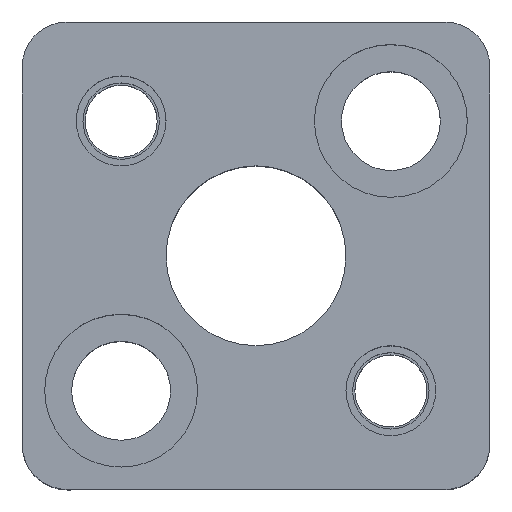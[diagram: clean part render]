
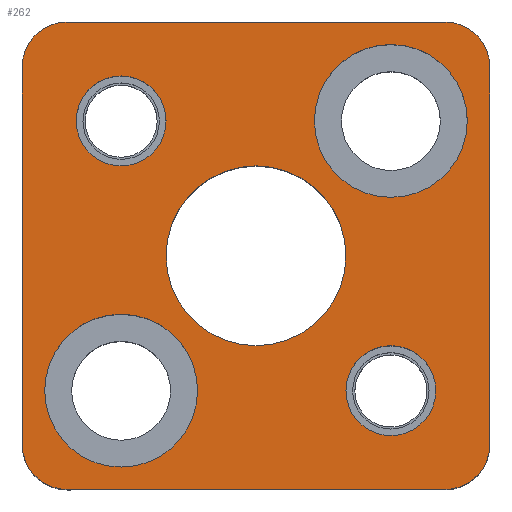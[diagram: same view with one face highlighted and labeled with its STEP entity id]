
A CAD part, top view. The second image highlights one B-rep face of the part: STEP entity #262.
In plain terms, the highlighted planar face has unit normal (0, 0, 1).
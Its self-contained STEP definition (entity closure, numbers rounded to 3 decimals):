
#111=FACE_BOUND('',#381,.T.);
#112=FACE_BOUND('',#382,.T.);
#113=FACE_BOUND('',#383,.T.);
#114=FACE_BOUND('',#384,.T.);
#115=FACE_BOUND('',#385,.T.);
#116=FACE_BOUND('',#386,.T.);
#162=CIRCLE('',#926,5.);
#164=CIRCLE('',#930,5.);
#166=CIRCLE('',#934,5.);
#168=CIRCLE('',#938,5.);
#181=CIRCLE('',#964,8.5);
#183=CIRCLE('',#967,8.5);
#185=CIRCLE('',#971,8.5);
#187=CIRCLE('',#974,8.5);
#209=CIRCLE('',#1011,5.);
#210=CIRCLE('',#1012,5.);
#211=CIRCLE('',#1013,5.);
#212=CIRCLE('',#1014,5.);
#213=CIRCLE('',#1015,10.);
#214=CIRCLE('',#1016,10.);
#262=ADVANCED_FACE('',(#111,#112,#113,#114,#115,#116),#287,.T.);
#287=PLANE('',#1017);
#381=EDGE_LOOP('',(#571,#572,#573,#574,#575,#576,#577,#578));
#382=EDGE_LOOP('',(#579,#580));
#383=EDGE_LOOP('',(#581,#582));
#384=EDGE_LOOP('',(#583,#584));
#385=EDGE_LOOP('',(#585,#586));
#386=EDGE_LOOP('',(#587,#588));
#571=ORIENTED_EDGE('',*,*,#724,.T.);
#572=ORIENTED_EDGE('',*,*,#721,.T.);
#573=ORIENTED_EDGE('',*,*,#718,.T.);
#574=ORIENTED_EDGE('',*,*,#715,.T.);
#575=ORIENTED_EDGE('',*,*,#712,.T.);
#576=ORIENTED_EDGE('',*,*,#709,.T.);
#577=ORIENTED_EDGE('',*,*,#730,.T.);
#578=ORIENTED_EDGE('',*,*,#727,.T.);
#579=ORIENTED_EDGE('',*,*,#801,.F.);
#580=ORIENTED_EDGE('',*,*,#802,.F.);
#581=ORIENTED_EDGE('',*,*,#803,.F.);
#582=ORIENTED_EDGE('',*,*,#804,.F.);
#583=ORIENTED_EDGE('',*,*,#769,.F.);
#584=ORIENTED_EDGE('',*,*,#765,.F.);
#585=ORIENTED_EDGE('',*,*,#763,.F.);
#586=ORIENTED_EDGE('',*,*,#759,.F.);
#587=ORIENTED_EDGE('',*,*,#805,.T.);
#588=ORIENTED_EDGE('',*,*,#806,.T.);
#635=VERTEX_POINT('',#1320);
#636=VERTEX_POINT('',#1322);
#638=VERTEX_POINT('',#1328);
#640=VERTEX_POINT('',#1334);
#642=VERTEX_POINT('',#1340);
#644=VERTEX_POINT('',#1346);
#646=VERTEX_POINT('',#1352);
#648=VERTEX_POINT('',#1358);
#665=VERTEX_POINT('',#1433);
#666=VERTEX_POINT('',#1434);
#669=VERTEX_POINT('',#1446);
#670=VERTEX_POINT('',#1447);
#693=VERTEX_POINT('',#1522);
#694=VERTEX_POINT('',#1523);
#695=VERTEX_POINT('',#1526);
#696=VERTEX_POINT('',#1527);
#697=VERTEX_POINT('',#1530);
#698=VERTEX_POINT('',#1531);
#709=EDGE_CURVE('',#636,#635,#825,.T.);
#712=EDGE_CURVE('',#638,#636,#162,.T.);
#715=EDGE_CURVE('',#640,#638,#829,.T.);
#718=EDGE_CURVE('',#642,#640,#164,.T.);
#721=EDGE_CURVE('',#644,#642,#833,.T.);
#724=EDGE_CURVE('',#646,#644,#166,.T.);
#727=EDGE_CURVE('',#648,#646,#837,.T.);
#730=EDGE_CURVE('',#635,#648,#168,.T.);
#759=EDGE_CURVE('',#665,#666,#181,.T.);
#763=EDGE_CURVE('',#666,#665,#183,.T.);
#765=EDGE_CURVE('',#669,#670,#185,.T.);
#769=EDGE_CURVE('',#670,#669,#187,.T.);
#801=EDGE_CURVE('',#693,#694,#209,.T.);
#802=EDGE_CURVE('',#694,#693,#210,.T.);
#803=EDGE_CURVE('',#695,#696,#211,.T.);
#804=EDGE_CURVE('',#696,#695,#212,.T.);
#805=EDGE_CURVE('',#697,#698,#213,.T.);
#806=EDGE_CURVE('',#698,#697,#214,.T.);
#825=LINE('',#1321,#875);
#829=LINE('',#1333,#879);
#833=LINE('',#1345,#883);
#837=LINE('',#1357,#887);
#875=VECTOR('',#1041,1.);
#879=VECTOR('',#1053,1.);
#883=VECTOR('',#1065,1.);
#887=VECTOR('',#1077,1.);
#926=AXIS2_PLACEMENT_3D('',#1327,#1047,#1048);
#930=AXIS2_PLACEMENT_3D('',#1339,#1059,#1060);
#934=AXIS2_PLACEMENT_3D('',#1351,#1071,#1072);
#938=AXIS2_PLACEMENT_3D('',#1362,#1083,#1084);
#964=AXIS2_PLACEMENT_3D('',#1432,#1147,#1148);
#967=AXIS2_PLACEMENT_3D('',#1441,#1155,#1156);
#971=AXIS2_PLACEMENT_3D('',#1445,#1163,#1164);
#974=AXIS2_PLACEMENT_3D('',#1454,#1171,#1172);
#1011=AXIS2_PLACEMENT_3D('',#1521,#1255,#1256);
#1012=AXIS2_PLACEMENT_3D('',#1524,#1257,#1258);
#1013=AXIS2_PLACEMENT_3D('',#1525,#1259,#1260);
#1014=AXIS2_PLACEMENT_3D('',#1528,#1261,#1262);
#1015=AXIS2_PLACEMENT_3D('',#1529,#1263,#1264);
#1016=AXIS2_PLACEMENT_3D('',#1532,#1265,#1266);
#1017=AXIS2_PLACEMENT_3D('',#1533,#1267,#1268);
#1041=DIRECTION('',(0.,-1.,0.));
#1047=DIRECTION('',(0.,0.,1.));
#1048=DIRECTION('',(0.707,-0.707,0.));
#1053=DIRECTION('',(-1.,0.,0.));
#1059=DIRECTION('',(0.,0.,1.));
#1060=DIRECTION('',(-0.707,-0.707,0.));
#1065=DIRECTION('',(0.,1.,0.));
#1071=DIRECTION('',(0.,0.,1.));
#1072=DIRECTION('',(-0.707,0.707,0.));
#1077=DIRECTION('',(1.,0.,0.));
#1083=DIRECTION('',(0.,0.,1.));
#1084=DIRECTION('',(0.707,0.707,0.));
#1147=DIRECTION('',(0.,0.,1.));
#1148=DIRECTION('',(-1.,0.,0.));
#1155=DIRECTION('',(0.,0.,1.));
#1156=DIRECTION('',(1.,0.,0.));
#1163=DIRECTION('',(0.,0.,1.));
#1164=DIRECTION('',(-1.,0.,0.));
#1171=DIRECTION('',(0.,0.,1.));
#1172=DIRECTION('',(1.,0.,0.));
#1255=DIRECTION('',(0.,0.,1.));
#1256=DIRECTION('',(1.,0.,0.));
#1257=DIRECTION('',(0.,0.,1.));
#1258=DIRECTION('',(-1.,0.,0.));
#1259=DIRECTION('',(0.,0.,1.));
#1260=DIRECTION('',(1.,0.,0.));
#1261=DIRECTION('',(0.,0.,1.));
#1262=DIRECTION('',(-1.,0.,0.));
#1263=DIRECTION('',(0.,0.,-1.));
#1264=DIRECTION('',(-1.,0.,0.));
#1265=DIRECTION('',(0.,0.,-1.));
#1266=DIRECTION('',(1.,0.,0.));
#1267=DIRECTION('',(0.,0.,1.));
#1268=DIRECTION('',(-1.,0.,0.));
#1320=CARTESIAN_POINT('',(-26.,-21.,30.));
#1321=CARTESIAN_POINT('',(-26.,21.,30.));
#1322=CARTESIAN_POINT('',(-26.,21.,30.));
#1327=CARTESIAN_POINT('',(-21.,21.,30.));
#1328=CARTESIAN_POINT('',(-21.,26.,30.));
#1333=CARTESIAN_POINT('',(-21.,26.,30.));
#1334=CARTESIAN_POINT('',(21.,26.,30.));
#1339=CARTESIAN_POINT('',(21.,21.,30.));
#1340=CARTESIAN_POINT('',(26.,21.,30.));
#1345=CARTESIAN_POINT('',(26.,21.,30.));
#1346=CARTESIAN_POINT('',(26.,-21.,30.));
#1351=CARTESIAN_POINT('',(21.,-21.,30.));
#1352=CARTESIAN_POINT('',(21.,-26.,30.));
#1357=CARTESIAN_POINT('',(-21.,-26.,30.));
#1358=CARTESIAN_POINT('',(-21.,-26.,30.));
#1362=CARTESIAN_POINT('',(-21.,-21.,30.));
#1432=CARTESIAN_POINT('',(-15.,-15.,30.));
#1433=CARTESIAN_POINT('',(-15.,-23.5,30.));
#1434=CARTESIAN_POINT('',(-15.,-6.5,30.));
#1441=CARTESIAN_POINT('',(-15.,-15.,30.));
#1445=CARTESIAN_POINT('',(15.,15.,30.));
#1446=CARTESIAN_POINT('',(15.,6.5,30.));
#1447=CARTESIAN_POINT('',(15.,23.5,30.));
#1454=CARTESIAN_POINT('',(15.,15.,30.));
#1521=CARTESIAN_POINT('',(-15.,15.,30.));
#1522=CARTESIAN_POINT('',(-15.,20.,30.));
#1523=CARTESIAN_POINT('',(-15.,10.,30.));
#1524=CARTESIAN_POINT('',(-15.,15.,30.));
#1525=CARTESIAN_POINT('',(15.,-15.,30.));
#1526=CARTESIAN_POINT('',(15.,-10.,30.));
#1527=CARTESIAN_POINT('',(15.,-20.,30.));
#1528=CARTESIAN_POINT('',(15.,-15.,30.));
#1529=CARTESIAN_POINT('',(0.,0.,30.));
#1530=CARTESIAN_POINT('',(0.,10.,30.));
#1531=CARTESIAN_POINT('',(0.,-10.,30.));
#1532=CARTESIAN_POINT('',(0.,0.,30.));
#1533=CARTESIAN_POINT('',(21.,-26.,30.));
